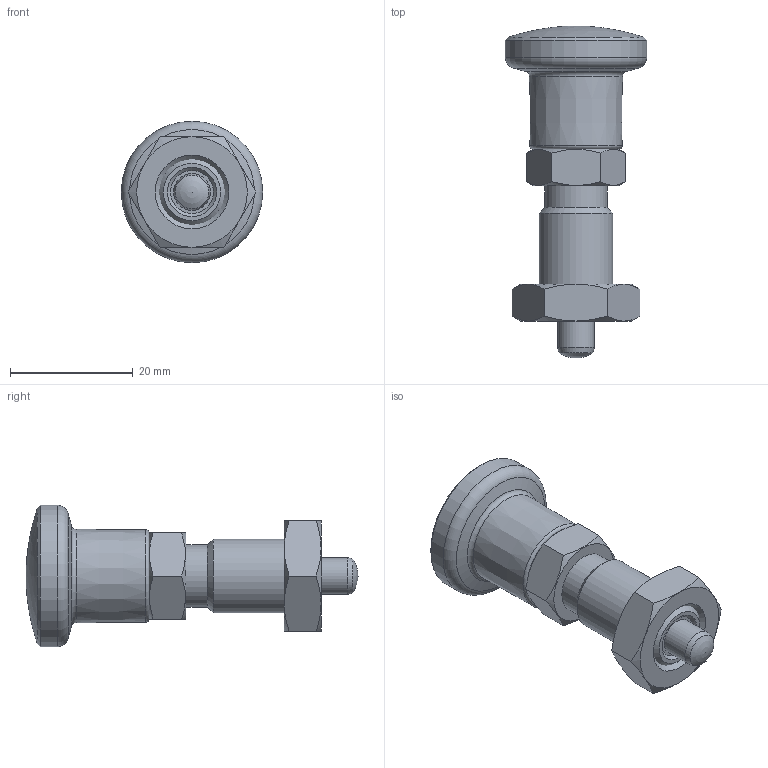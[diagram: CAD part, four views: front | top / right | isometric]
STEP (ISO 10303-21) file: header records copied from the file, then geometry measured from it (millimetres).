
FILE_DESCRIPTION( ( 'STEP AP203' ), '1' );
FILE_NAME( 'C:/Temp/Ganter_Step_05_03_2020/data/3_1/gn817/gn817_ni-rastbolzen_rot/Stainless Steel-Indexing plunger GN 817-6-6-BK-NI-RT (deactivated-0).stp', '2020-03-12T09:00:29', ( 'License CC BY-ND 4.0' ), ( 'CADENAS' ), ' ', 'PARTsolutions', ' ' );
FILE_SCHEMA( ( 'CONFIG_CONTROL_DESIGN' ) );
Length unit declared in the file: millimetre
Products named in the file (5): Stainless Steel-Indexing plunger GN 817-6-6-BK-NI-RT (deactivated-0); _Stainless steel-Indexing plunger GN 817-6-6-BK-NI-RT (deactivated-0)-d; _Stainless steel-Indexing plunger GN 817-6-6-B-NI-RT-2; _Stainless Steel Indexing plunger GN 817-6-6-B-NI-RT-1; _Stainless steel-Indexing plunger GN 817-6-6-BK-NI-RT (deactivated-0)-3
Assembly tree (4 placements, depth 2):
  Stainless Steel-Indexing plunger GN 817-6-6-BK-NI-RT (deactivated-0)
    _Stainless steel-Indexing plunger GN 817-6-6-BK-NI-RT (deactivated-0)-d
    _Stainless steel-Indexing plunger GN 817-6-6-B-NI-RT-2
    _Stainless Steel Indexing plunger GN 817-6-6-B-NI-RT-1
    _Stainless steel-Indexing plunger GN 817-6-6-BK-NI-RT (deactivated-0)-3
Bounding box: 23 x 54 x 23 mm (x, y, z)
Volume: 9305.6 mm3; surface area: 5263.6 mm2
Topology: 3 solids, 3 shells, 61 faces, 125 edges, 74 vertices
Faces by surface type: cone 24, plane 21, cylinder 9, torus 5, bspline 1, sphere 1
Full cylindrical faces by diameter (mm): 5 x2, 6 x1, 7 x2, 10.1 x1, 10.376 x1, 12 x1, 23 x1
Entity records: 1807 total; most frequent: CARTESIAN_POINT 520, DIRECTION 234, ORIENTED_EDGE 188, AXIS2_PLACEMENT_3D 111, EDGE_LOOP 96, EDGE_CURVE 94, FACE_OUTER_BOUND 75, VERTEX_POINT 72
